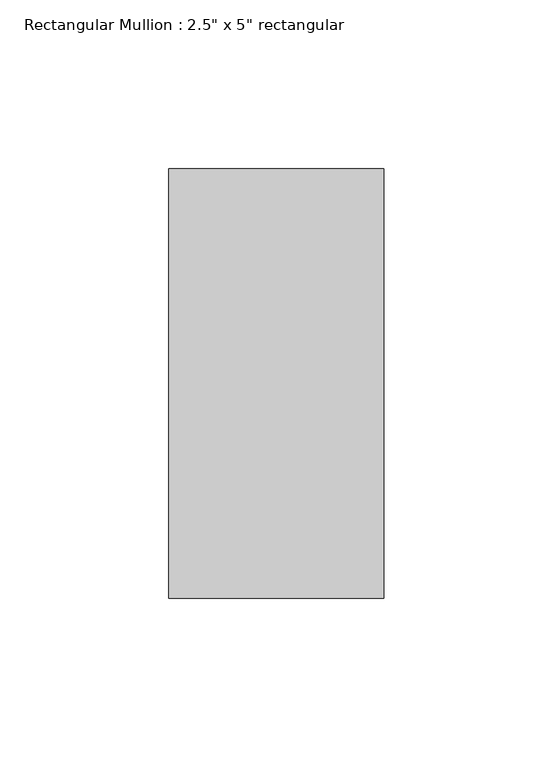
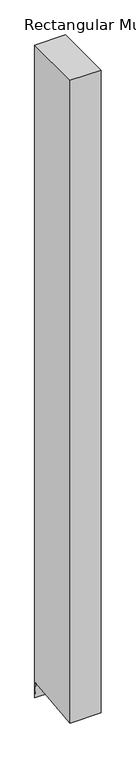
"""IFC4 building model written with IfcOpenShell, lengths in millimetres: member geometry."""

import ifcopenshell
import ifcopenshell.guid

model = None  # the IFC model being written
_history = None  # IfcOwnerHistory: only IFC2X3 demands one
_inside = {}  # id of a spatial element -> (the spatial element, [elements in it])
_under = {}  # id of a project, library or spatial element -> (it, [spatial elements below it])
_declared = {}  # id of a project -> (the project, [libraries it declares])
_typed = {}  # id of a type object -> (the type object, [elements of that type])
_made_of = {}  # id of a material, layer set ... -> (it, [elements and type objects made of it])


def new_model(schema):
    """Start an empty IFC model of exactly this schema.

    Asked for "IFC4X3", IfcOpenShell would pick the latest addendum, in which some entities
    have other attributes; the version numbers below select the first issue.
    IFC2X3 requires an IfcOwnerHistory on every rooted entity: one is made here for all.
    """
    global model, _history
    if schema == "IFC4X3":
        model = ifcopenshell.file(schema_version=(4, 3, 0, 0))
    else:
        model = ifcopenshell.file(schema=schema)
    _inside.clear()
    _under.clear()
    _declared.clear()
    _typed.clear()
    _made_of.clear()
    _history = None
    if model.schema == "IFC2X3":
        org = make("IfcOrganization", Name="unknown")
        user = make(
            "IfcPersonAndOrganization",
            ThePerson=make("IfcPerson", FamilyName="unknown"),
            TheOrganization=org,
        )
        app = make(
            "IfcApplication",
            ApplicationDeveloper=org,
            Version="unknown",
            ApplicationFullName="unknown",
            ApplicationIdentifier="unknown",
        )
        _history = make(
            "IfcOwnerHistory",
            OwningUser=user,
            OwningApplication=app,
            ChangeAction="ADDED",
            CreationDate=0,
        )
    return model


def make(cls, **values):
    """One entity of the class cls with the attributes given. An attribute that is None is left unset."""
    return model.create_entity(
        cls, **{name: value for name, value in values.items() if value is not None}
    )


def rooted(cls, **values):
    """An entity with a GlobalId (a new one), such as an element, a storey or a relation."""
    return make(cls, GlobalId=ifcopenshell.guid.new(), OwnerHistory=_history, **values)


def si_unit(unit_type, name, prefix=None):
    """IfcSIUnit, for example si_unit("LENGTHUNIT", "METRE", prefix="MILLI")."""
    return make("IfcSIUnit", UnitType=unit_type, Prefix=prefix, Name=name)


def assignment(units):
    """IfcUnitAssignment: the units of a project."""
    return None if units is None else make("IfcUnitAssignment", Units=units)


def point(xyz):
    """IfcCartesianPoint."""
    return None if xyz is None else make("IfcCartesianPoint", Coordinates=xyz)


def direction(xyz):
    """IfcDirection."""
    return None if xyz is None else make("IfcDirection", DirectionRatios=xyz)


def frame(location, z_axis=None, x_axis=None):
    """IfcAxis2Placement3D, a coordinate frame: its origin and axes. An axis left out is left unset."""
    return make(
        "IfcAxis2Placement3D",
        Location=point(location),
        Axis=direction(z_axis),
        RefDirection=direction(x_axis),
    )


def origin():
    """The frame at (0, 0, 0) with its axes left unset."""
    return frame((0.0, 0.0, 0.0))


def place(relative_to, where):
    """IfcLocalPlacement: puts the frame where relative to a parent placement (None: the world)."""
    return make(
        "IfcLocalPlacement", PlacementRelTo=relative_to, RelativePlacement=where
    )


def context(
    kind, dimensions, precision=None, world=None, true_north=None, identifier=None
):
    """IfcGeometricRepresentationContext, for example the 3D "Model" context."""
    return make(
        "IfcGeometricRepresentationContext",
        ContextIdentifier=identifier,
        ContextType=kind,
        CoordinateSpaceDimension=dimensions,
        Precision=precision,
        WorldCoordinateSystem=world,
        TrueNorth=true_north,
    )


def project(units=None, contexts=None):
    """IfcProject with its units and contexts."""
    return rooted(
        "IfcProject",
        Name="project",
        RepresentationContexts=contexts,
        UnitsInContext=assignment(units),
    )


def spatial(cls, under=None, at=None, **own):
    """A site, building, storey or space (cls), placed at a placement, below another one or the project."""
    s = rooted(cls, ObjectPlacement=at, **own)
    if under is not None:
        _under.setdefault(under.id(), (under, []))[1].append(s)
    return s


def polyline(points):
    """IfcPolyline through the points."""
    return make("IfcPolyline", Points=[point(p) for p in points])


def outline(outer, holes=None, kind="AREA"):
    """IfcArbitraryClosedProfileDef: a profile drawn as a closed curve; with holes, ...WithVoids."""
    if holes is None:
        return make("IfcArbitraryClosedProfileDef", ProfileType=kind, OuterCurve=outer)
    return make(
        "IfcArbitraryProfileDefWithVoids",
        ProfileType=kind,
        OuterCurve=outer,
        InnerCurves=holes,
    )


def extrude(swept, where, along, depth):
    """IfcExtrudedAreaSolid: the profile swept, set in the frame where, extruded along a direction by depth."""
    return make(
        "IfcExtrudedAreaSolid",
        SweptArea=swept,
        Position=where,
        ExtrudedDirection=direction(along),
        Depth=depth,
    )


def shape(context_of_items, identifier, shape_type, items):
    """IfcShapeRepresentation: the items that make up one representation, for example the "Body"."""
    return make(
        "IfcShapeRepresentation",
        ContextOfItems=context_of_items,
        RepresentationIdentifier=identifier,
        RepresentationType=shape_type,
        Items=items,
    )


def source(mapping_origin, context_of_items, identifier, shape_type, items):
    """IfcRepresentationMap: a shape defined once, which mapped items show again and again."""
    return make(
        "IfcRepresentationMap",
        MappingOrigin=mapping_origin,
        MappedRepresentation=shape(context_of_items, identifier, shape_type, items),
    )


def transform(
    local_origin,
    x_axis=None,
    y_axis=None,
    z_axis=None,
    scale=None,
    scale2=None,
    scale3=None,
    uniform=True,
):
    """IfcCartesianTransformationOperator3D, or its non-uniform kind. x_axis, y_axis, z_axis: its Axis1, 2, 3."""
    if uniform:
        return make(
            "IfcCartesianTransformationOperator3D",
            Axis1=direction(x_axis),
            Axis2=direction(y_axis),
            LocalOrigin=point(local_origin),
            Scale=scale,
            Axis3=direction(z_axis),
        )
    return make(
        "IfcCartesianTransformationOperator3DnonUniform",
        Axis1=direction(x_axis),
        Axis2=direction(y_axis),
        LocalOrigin=point(local_origin),
        Scale=scale,
        Axis3=direction(z_axis),
        Scale2=scale2,
        Scale3=scale3,
    )


def mapped(mapping_source, mapping_target):
    """IfcMappedItem: shows the shape of a source again, moved by a transform."""
    return make(
        "IfcMappedItem", MappingSource=mapping_source, MappingTarget=mapping_target
    )


def made_of(thing, what):
    """Note that an element or type object is made of a material, layer set ...; save() writes the relation."""
    if what is not None:
        _made_of.setdefault(what.id(), (what, []))[1].append(thing)
    return thing


def element(
    cls,
    number,
    at=None,
    inside=None,
    cuts=None,
    type_object=None,
    material=None,
    context=None,
    identifier="Body",
    shape_type=None,
    held_by="IfcProductDefinitionShape",
    body=None,
    shapes=None,
    **own,
):
    """One element of the class cls, such as IfcWall. Its Tag is "e" and its number.

    at: its placement. inside: the storey or other place that contains it. cuts: it is an
    opening in that element (IfcRelVoidsElement). A single representation is given by context,
    identifier, shape_type and body (its items); several are given by shapes. held_by: the class
    of the entity that holds the representations. save() writes the other relations.
    """
    e = rooted(cls, Tag="e%d" % number, ObjectPlacement=at, **own)
    if body is not None:
        shapes = [shape(context, identifier, shape_type, body)]
    if shapes is not None:
        e.Representation = make(held_by, Representations=shapes)
    if inside is not None:
        _inside.setdefault(inside.id(), (inside, []))[1].append(e)
    if cuts is not None:
        rooted(
            "IfcRelVoidsElement", RelatingBuildingElement=cuts, RelatedOpeningElement=e
        )
    if type_object is not None:
        _typed.setdefault(type_object.id(), (type_object, []))[1].append(e)
    return made_of(e, material)


def aggregate(whole, parts):
    """IfcRelAggregates: a whole, such as a stair, and the parts it consists of."""
    return rooted("IfcRelAggregates", RelatingObject=whole, RelatedObjects=parts)


def save(model, path):
    """Write the relations noted so far, then the file.

    IfcRelAggregates (storeys below a building ...), IfcRelContainedInSpatialStructure (elements
    in a storey), IfcRelDefinesByType, IfcRelAssociatesMaterial and IfcRelDeclares: one each for
    every whole, place, type object, material and project.
    """
    for whole, parts in _under.values():
        aggregate(whole, parts)
    for where, things in _inside.values():
        rooted(
            "IfcRelContainedInSpatialStructure",
            RelatedElements=things,
            RelatingStructure=where,
        )
    for kind, things in _typed.values():
        rooted("IfcRelDefinesByType", RelatedObjects=things, RelatingType=kind)
    for what, things in _made_of.values():
        rooted("IfcRelAssociatesMaterial", RelatedObjects=things, RelatingMaterial=what)
    for by, libraries in _declared.values():
        rooted("IfcRelDeclares", RelatingContext=by, RelatedDefinitions=libraries)
    model.write(path)


def member_ab48d357(model_context):
    return source(origin(), model_context, "Body", "SweptSolid", [
        extrude(outline(polyline([(-63.5, 0.0), (63.5, 0.0), (63.5, -1425.6268913), (59.8333616, -1390.7411577), (-63.5, -1403.7040164), (-63.5, 0.0)])), frame((-63.5, 0.0, 0.0), z_axis=(1.0, 0.0, 0.0), x_axis=(0.0, 1.0, 0.0)), (0.0, 0.0, 1.0), 63.5),
    ])


if __name__ == "__main__":
    model = new_model("IFC4")
    model_context = context("Model", 3, world=origin())
    ifc_project = project(units=[si_unit("LENGTHUNIT", "METRE", prefix="MILLI")], contexts=[model_context])
    site = spatial("IfcSite", under=ifc_project)
    building = spatial("IfcBuilding", under=site)
    placement = place(None, origin())
    member_shape = member_ab48d357(model_context)
    element("IfcMember", 1, ObjectType="Rectangular Mullion : 2.5\" x 5\" rectangular", at=placement, inside=building, context=model_context, shape_type="MappedRepresentation", body=[
        mapped(member_shape, transform((0.0, 0.0, 0.0), x_axis=(1.0, 0.0, 0.0), y_axis=(0.0, 1.0, 0.0), z_axis=(0.0, 0.0, 1.0))),
    ])
    save(model, "model.ifc")
